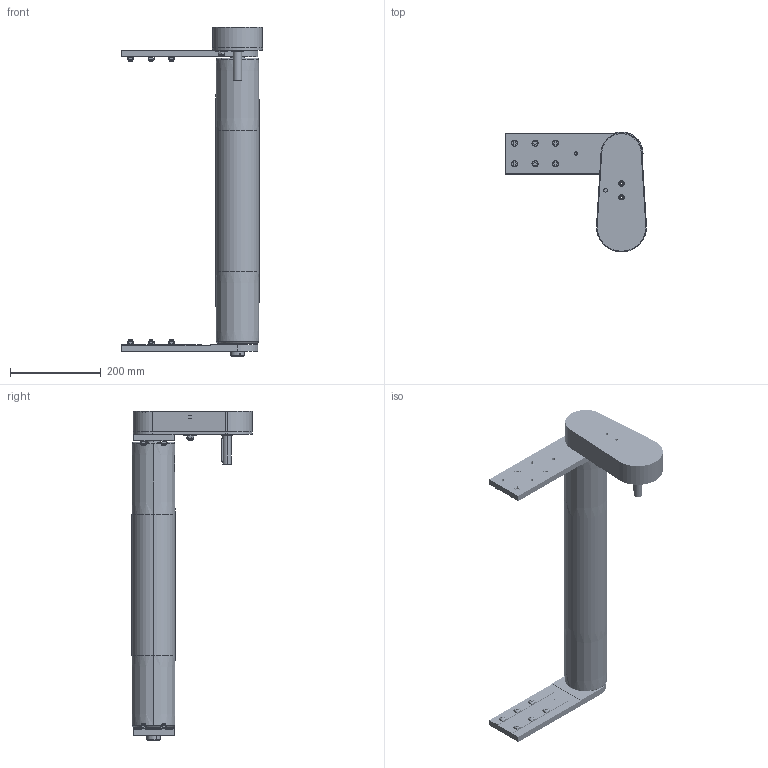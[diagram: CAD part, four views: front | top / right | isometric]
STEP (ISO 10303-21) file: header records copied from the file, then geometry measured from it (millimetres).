
FILE_DESCRIPTION (( 'STEP AP203' ), '1' );
FILE_NAME ('084.095.KTC.44.600.step', '2013-02-28T12:01:06', ( '' ), ( '' ), 'SwSTEP 2.0', 'SolidWorks 2011', '' );
FILE_SCHEMA (( 'CONFIG_CONTROL_DESIGN' ));
Products named in the file (24): 084.095.KTC.44.600; 084.813.004; 084.302.000 DADI ALUSIC 13x13_084.302.004; 084.301.000 VITI ALUSIC_084.301.003; 084.809.003; 084.810.005; Torque nut 01_ALUSIC_ISO 7040-M8-S; Plain Washer XLarge Grade C_ALUSIC_Washer ISO 7094 - 8; Circlip for Shafts normal_din_Circlip DIN 471 - 8 x 0.8; CUSCINETTI A SFERE_608-2RS; 084.810.004; 084.810.007; CHIAVETTE_A 6x6x50 UNI 6604-69; 084.803.012; 084.803.014; 084.809.001; 084.808.002_084.808.002; 084.808.003_084.808.003; 084.802.019_084.802.019; 084.802.034_084.802.034; 084.810.003; 084.813.002; 084.812.003; 084.816.110_084.816.110<A macchina>
Assembly tree (48 placements, depth 3):
  084.095.KTC.44.600
    084.302.000 DADI ALUSIC 13x13_084.302.004  x12
    084.301.000 VITI ALUSIC_084.301.003  x12
    084.809.001
    084.810.005
      084.810.004
      084.810.007
      CUSCINETTI A SFERE_608-2RS  x2
      Plain Washer XLarge Grade C_ALUSIC_Washer ISO 7094 - 8
      Circlip for Shafts normal_din_Circlip DIN 471 - 8 x 0.8
      Torque nut 01_ALUSIC_ISO 7040-M8-S
    084.802.019_084.802.019
    084.813.004
    084.813.002
    084.808.003_084.808.003
    084.808.002_084.808.002
    084.812.003
    084.809.003
    084.803.014  x2
    084.802.034_084.802.034
    084.803.012
    084.810.003  x2
    084.816.110_084.816.110<A macchina>
    CHIAVETTE_A 6x6x50 UNI 6604-69
Bounding box: 310 x 264 x 723.5 mm (x, y, z)
Volume: 2348757.5 mm3; surface area: 1082546 mm2
Topology: 77 solids, 78 shells, 3125 faces, 7340 edges, 4688 vertices
Faces by surface type: cylinder 1491, plane 850, bspline 468, cone 197, torus 110, sphere 9
Entity records: 84061 total; most frequent: CARTESIAN_POINT 18902, DIRECTION 14115, ORIENTED_EDGE 12230, EDGE_CURVE 6115, AXIS2_PLACEMENT_3D 5946, VERTEX_POINT 3893, CIRCLE 3737, EDGE_LOOP 3198
